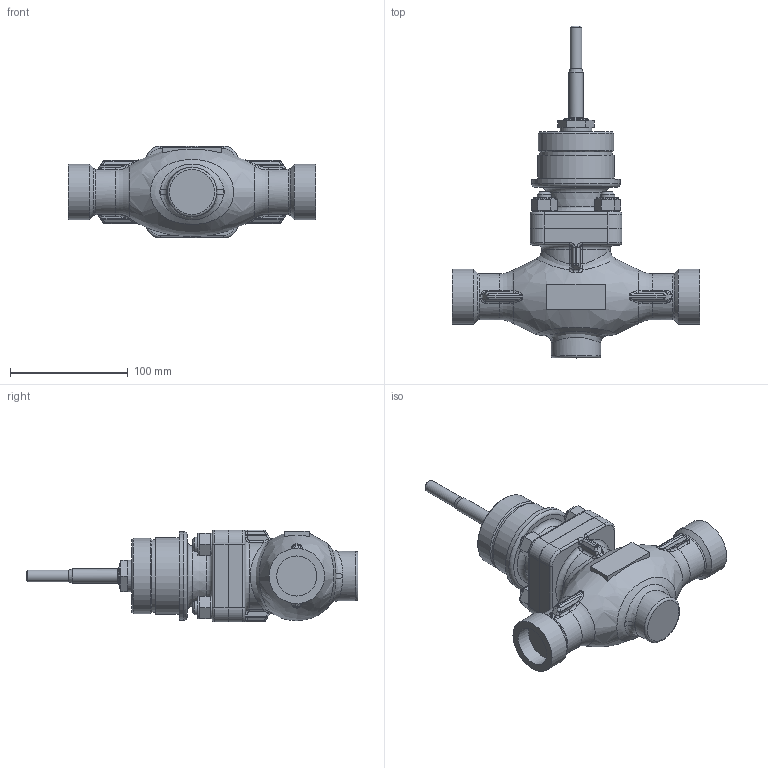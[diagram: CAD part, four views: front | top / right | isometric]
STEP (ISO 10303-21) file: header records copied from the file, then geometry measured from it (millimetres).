
FILE_DESCRIPTION(/* description */ (''),/* implementation_level */ '2;1');
FILE_NAME(/* name */ 'CV3xx_NPS_1_privarovaci_SW_CL300.stp',/* time_stamp */ '2017-05-05T07:57:11+02:00',/* author */ (''),/* organization */ (''),/* preprocessor_version */ 'ST-DEVELOPER v15',/* originating_system */ 'SIEMENS PLM Software NX 8.5',/* authorisation */ '');
FILE_SCHEMA (('AP203_CONFIGURATION_CONTROLLED_3D_DESIGN_OF_MECHANICAL_PARTS_AND_ASSEMBLIES_MIM_LF { 1 0 10303 403 2 1 2}'));
Length unit declared in the file: millimetre
Products named in the file (1): adam123C24F3gp4k
Bounding box: 210 x 282 x 78 mm (x, y, z)
Volume: 951869.1 mm3; surface area: 99495.5 mm2
Topology: 1 solids, 1 shells, 459 faces, 1038 edges, 597 vertices
Faces by surface type: cylinder 132, plane 116, bspline 84, cone 76, torus 27, sphere 24
Full cylindrical faces by diameter (mm): 10 x1, 12 x9, 14 x5, 18 x1, 19 x8, 21 x1, 27 x1, 34.1 x2, 39 x2, 42 x1, 47 x2, 58 x1, 61.6 x1, 64 x1, 65 x1, 75 x1
Entity records: 14254 total; most frequent: CARTESIAN_POINT 5125, ORIENTED_EDGE 1838, DIRECTION 1810, EDGE_CURVE 919, AXIS2_PLACEMENT_3D 784, EDGE_LOOP 564, VERTEX_POINT 559, ADVANCED_FACE 459
